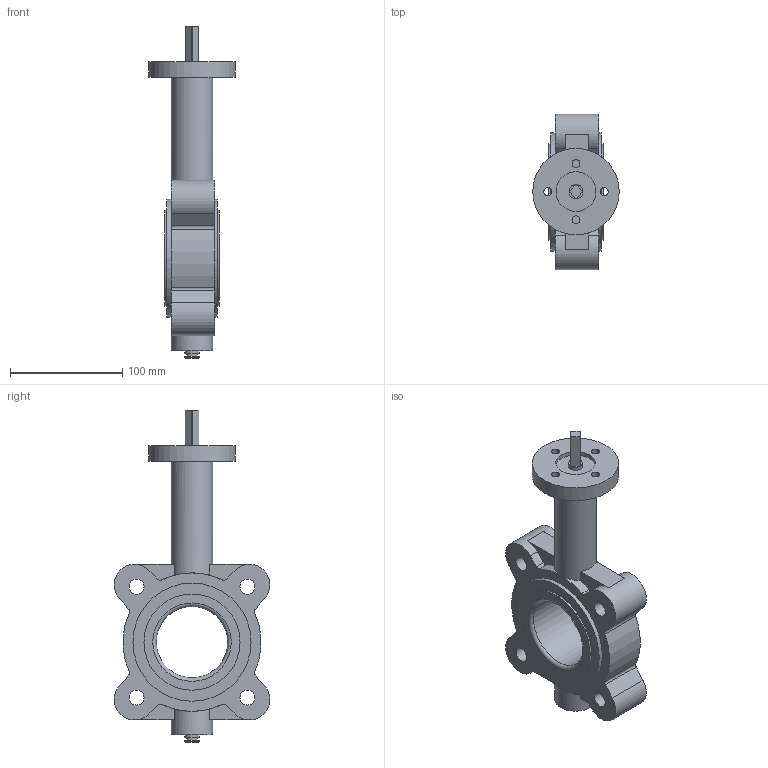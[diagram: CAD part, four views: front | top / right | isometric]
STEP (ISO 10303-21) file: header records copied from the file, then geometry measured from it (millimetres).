
FILE_DESCRIPTION((' '),'2;1');
FILE_NAME('N:\Technical Support\Private\Jomar Valve CAD\Actuation\Butterfly\600-212DS_BFusionCopy.stp','2017-06-05T15:43:51',(' '),(' '),' ','ACIS',' ');
FILE_SCHEMA(('CONFIG_CONTROL_DESIGN'));
Length unit declared in the file: inch
Products named in the file (3): N:\Technical Support\Private\Jomar Valve CAD\Actuation\Butterfly\600-212DS_BFusionCopy.stp; Body1; Body2
Assembly tree (2 placements, depth 2):
  N:\Technical Support\Private\Jomar Valve CAD\Actuation\Butterfly\600-212DS_BFusionCopy.stp
    Body1
    Body2
Bounding box: 76.96 x 138.56 x 295.54 mm (x, y, z)
Volume: 721387.4 mm3; surface area: 93453.1 mm2
Topology: 2 solids, 2 shells, 93 faces, 247 edges, 167 vertices
Faces by surface type: cylinder 43, plane 41, bspline 6, torus 2, cone 1
Full cylindrical faces by diameter (mm): 7.112 x4, 9.474 x1, 12.446 x1, 12.548 x2, 13.335 x4, 35.433 x1, 36.83 x2, 63.5 x1, 76.962 x1, 85.598 x2, 105.156 x2
Entity records: 3182 total; most frequent: CARTESIAN_POINT 532, DIRECTION 500, ORIENTED_EDGE 420, EDGE_CURVE 210, AXIS2_PLACEMENT_3D 202, VERTEX_POINT 154, EDGE_LOOP 144, CIRCLE 110
